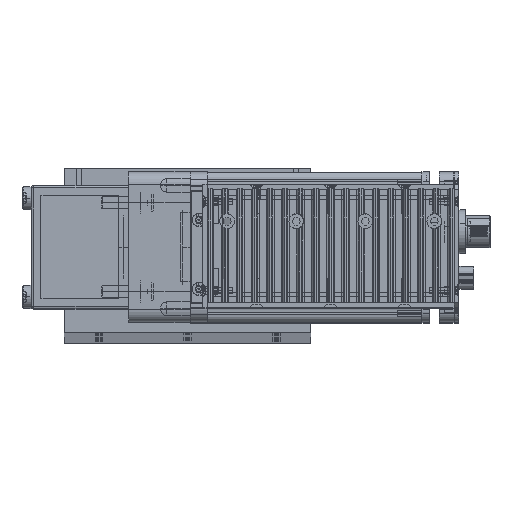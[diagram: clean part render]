
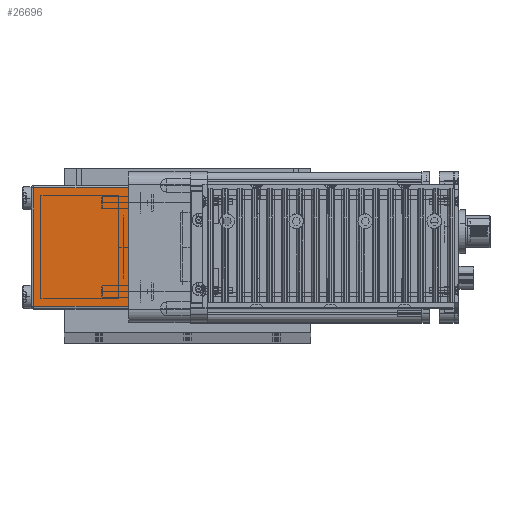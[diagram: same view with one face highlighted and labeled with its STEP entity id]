
A CAD part, top view. The second image highlights one B-rep face of the part: STEP entity #26696.
In plain terms, the highlighted planar face has unit normal (0, 0, 1) as drawn and (1, 0, 0) by its records, which use the part's own axes.
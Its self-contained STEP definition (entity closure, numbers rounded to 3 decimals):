
#5835 = CARTESIAN_POINT ( 'NONE',  ( 62., 24., 0. ) ) ;
#5905 = DIRECTION ( 'NONE',  ( 0., 0., 1. ) ) ;
#5906 = VECTOR ( 'NONE', #5905, 1000. ) ;
#5910 = CARTESIAN_POINT ( 'NONE',  ( 62., -24., 39.5 ) ) ;
#5911 = LINE ( 'NONE', #5910, #5906 ) ;
#5961 = DIRECTION ( 'NONE',  ( 0., 0., -1. ) ) ;
#5962 = VECTOR ( 'NONE', #5961, 1000. ) ;
#5971 = CARTESIAN_POINT ( 'NONE',  ( 62., 24., 39.5 ) ) ;
#5973 = LINE ( 'NONE', #5971, #5962 ) ;
#5977 = CARTESIAN_POINT ( 'NONE',  ( 62., 24., 38.5 ) ) ;
#5985 = CARTESIAN_POINT ( 'NONE',  ( 62., -24., 38.5 ) ) ;
#5986 = CARTESIAN_POINT ( 'NONE',  ( 62., -24., 0. ) ) ;
#6303 = CARTESIAN_POINT ( 'NONE',  ( 62., 25., 39.5 ) ) ;
#6304 = PLANE ( 'NONE',  #6332 ) ;
#6328 = CARTESIAN_POINT ( 'NONE',  ( 62., -25., 0. ) ) ;
#6330 = DIRECTION ( 'NONE',  ( 0., -1., 0. ) ) ;
#6331 = DIRECTION ( 'NONE',  ( -1., 0., 0. ) ) ;
#6332 = AXIS2_PLACEMENT_3D ( 'NONE', #6303, #6331, #6330 ) ;
#6333 = DIRECTION ( 'NONE',  ( 0., 1., 0. ) ) ;
#6334 = VECTOR ( 'NONE', #6333, 1000. ) ;
#6341 = LINE ( 'NONE', #6328, #6334 ) ;
#6346 = FACE_OUTER_BOUND ( 'NONE', #26703, .T. ) ;
#6375 = DIRECTION ( 'NONE',  ( 0., 1., 0. ) ) ;
#6376 = VECTOR ( 'NONE', #6375, 1000. ) ;
#6377 = CARTESIAN_POINT ( 'NONE',  ( 62., -25., 38.5 ) ) ;
#6378 = LINE ( 'NONE', #6377, #6376 ) ;
#26463 = VERTEX_POINT ( 'NONE', #5835 ) ;
#26490 = EDGE_CURVE ( 'NONE', #26515, #26522, #5911, .T. ) ;
#26515 = VERTEX_POINT ( 'NONE', #5986 ) ;
#26522 = VERTEX_POINT ( 'NONE', #5985 ) ;
#26525 = VERTEX_POINT ( 'NONE', #5977 ) ;
#26528 = EDGE_CURVE ( 'NONE', #26525, #26463, #5973, .T. ) ;
#26695 = ORIENTED_EDGE ( 'NONE', *, *, #26697, .T. ) ;
#26696 = ADVANCED_FACE ( 'NONE', ( #6346 ), #6304, .F. ) ;
#26697 = EDGE_CURVE ( 'NONE', #26515, #26463, #6341, .T. ) ;
#26698 = EDGE_CURVE ( 'NONE', #26522, #26525, #6378, .T. ) ;
#26699 = ORIENTED_EDGE ( 'NONE', *, *, #26698, .F. ) ;
#26700 = ORIENTED_EDGE ( 'NONE', *, *, #26528, .F. ) ;
#26703 = EDGE_LOOP ( 'NONE', ( #26707, #26695, #26700, #26699 ) ) ;
#26707 = ORIENTED_EDGE ( 'NONE', *, *, #26490, .F. ) ;
